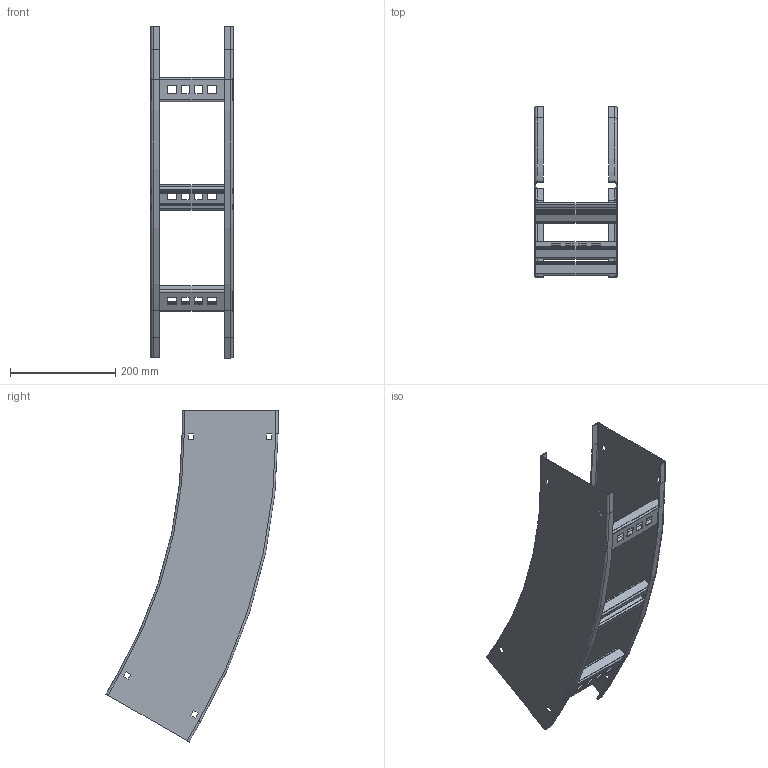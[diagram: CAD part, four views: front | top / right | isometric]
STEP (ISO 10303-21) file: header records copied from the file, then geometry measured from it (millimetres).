
FILE_DESCRIPTION((''),'2;1');
FILE_NAME('AUF706LVI3036_ASM','2010-01-28T',('erouzier'),(''),'PRO/ENGINEER BY PARAMETRIC TECHNOLOGY CORPORATION, 2008510','PRO/ENGINEER BY PARAMETRIC TECHNOLOGY CORPORATION, 2008510','');
FILE_SCHEMA(('CONFIG_CONTROL_DESIGN'));
Length unit declared in the file: inch
Products named in the file (3): CDS001419_7_30_36; CDS002159L6-P; AUF706LVI3036_ASM
Assembly tree (5 placements, depth 2):
  AUF706LVI3036_ASM
    CDS001419_7_30_36  x2
    CDS002159L6-P  x3
Bounding box: 156.51 x 327.15 x 631.36 mm (x, y, z)
Volume: 583633.9 mm3; surface area: 619861.4 mm2
Topology: 5 solids, 5 shells, 302 faces, 812 edges, 520 vertices
Faces by surface type: plane 189, cylinder 105, torus 8
Entity records: 3816 total; most frequent: DIRECTION 654, CARTESIAN_POINT 644, ORIENTED_EDGE 632, EDGE_CURVE 316, VECTOR 234, LINE 234, AXIS2_PLACEMENT_3D 210, VERTEX_POINT 200
